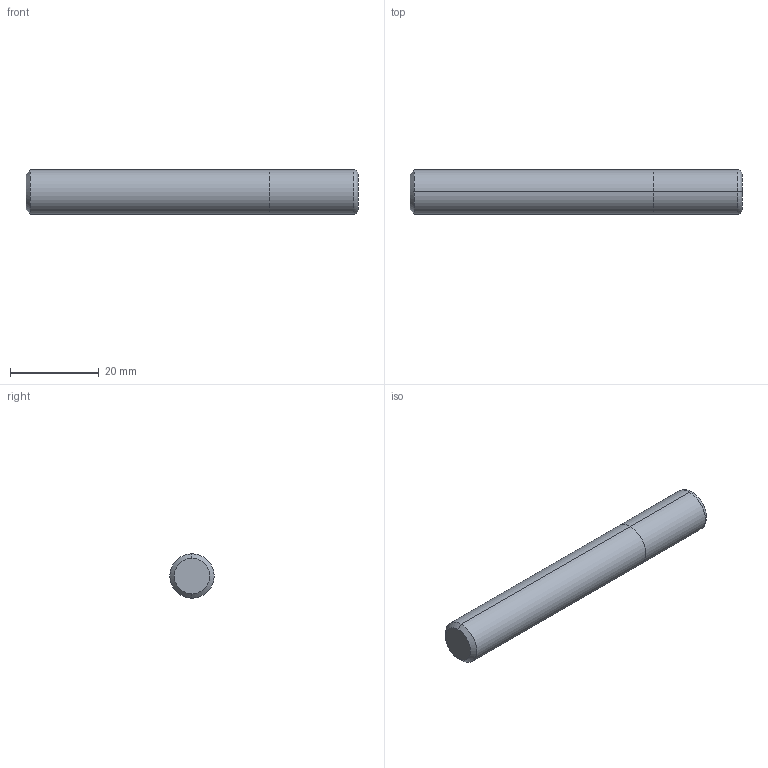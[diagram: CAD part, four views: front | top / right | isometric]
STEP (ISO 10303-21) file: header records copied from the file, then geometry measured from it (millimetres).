
FILE_DESCRIPTION (( 'STEP AP214' ), '1' );
FILE_NAME ('G9B84921.STEP', '2018-07-03T04:57:22', ( 'USER' ), ( '' ), 'SwSTEP 2.0', 'SolidWorks 2014', '' );
FILE_SCHEMA (( 'AUTOMOTIVE_DESIGN' ));
Length unit declared in the file: millimetre
Products named in the file (1): G9B84921
Bounding box: 75 x 10 x 10 mm (x, y, z)
Volume: 5869.4 mm3; surface area: 2636.7 mm2
Topology: 2 solids, 2 shells, 12 faces, 20 edges, 12 vertices
Faces by surface type: cylinder 4, plane 4, cone 2, torus 2
Entity records: 395 total; most frequent: DIRECTION 60, CARTESIAN_POINT 45, ORIENTED_EDGE 40, AXIS2_PLACEMENT_3D 27, EDGE_CURVE 20, CIRCLE 14, ADVANCED_FACE 12, EDGE_LOOP 12
